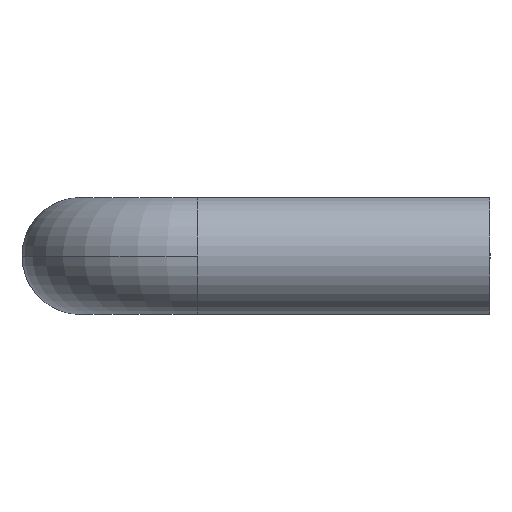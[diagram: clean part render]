
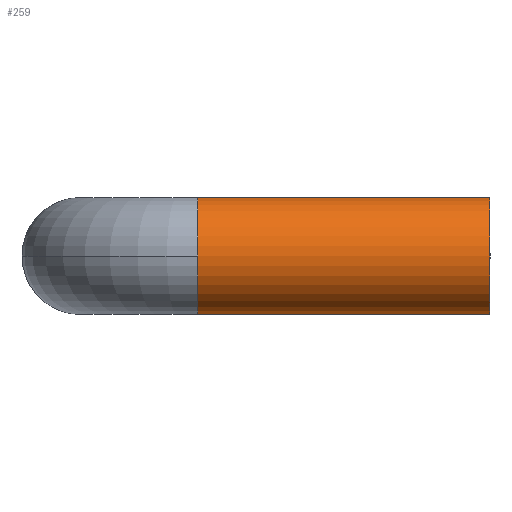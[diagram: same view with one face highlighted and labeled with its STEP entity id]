
A CAD part, left-side view. The second image highlights one B-rep face of the part: STEP entity #259.
In plain terms, the highlighted cylindrical face has radius 5 mm (diameter 10 mm), a partial arc.
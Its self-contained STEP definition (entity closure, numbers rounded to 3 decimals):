
#3 = AXIS2_PLACEMENT_3D ( 'NONE', #307, #13, #310 ) ;
#4 = CARTESIAN_POINT ( 'NONE',  ( -75., -35., 0. ) ) ;
#13 = DIRECTION ( 'NONE',  ( 0., -1., 0. ) ) ;
#16 = DIRECTION ( 'NONE',  ( 0., 0., -1. ) ) ;
#28 = ORIENTED_EDGE ( 'NONE', *, *, #113, .T. ) ;
#35 = AXIS2_PLACEMENT_3D ( 'NONE', #4, #615, #16 ) ;
#61 = ORIENTED_EDGE ( 'NONE', *, *, #346, .F. ) ;
#64 = AXIS2_PLACEMENT_3D ( 'NONE', #401, #353, #290 ) ;
#78 = VERTEX_POINT ( 'NONE', #195 ) ;
#86 = VERTEX_POINT ( 'NONE', #207 ) ;
#89 = CIRCLE ( 'NONE', #64, 5. ) ;
#113 = EDGE_CURVE ( 'NONE', #86, #477, #89, .T. ) ;
#140 = ORIENTED_EDGE ( 'NONE', *, *, #588, .F. ) ;
#156 = ORIENTED_EDGE ( 'NONE', *, *, #330, .T. ) ;
#195 = CARTESIAN_POINT ( 'NONE',  ( -75., -10., 5. ) ) ;
#207 = CARTESIAN_POINT ( 'NONE',  ( -80., -10., 0. ) ) ;
#238 = DIRECTION ( 'NONE',  ( 0., 0., -1. ) ) ;
#259 = ADVANCED_FACE ( 'NONE', ( #304 ), #407, .T. ) ;
#267 = CARTESIAN_POINT ( 'NONE',  ( -75., -10., -5. ) ) ;
#290 = DIRECTION ( 'NONE',  ( 0., 0., -1. ) ) ;
#304 = FACE_OUTER_BOUND ( 'NONE', #612, .T. ) ;
#307 = CARTESIAN_POINT ( 'NONE',  ( -75., -10., 0. ) ) ;
#310 = DIRECTION ( 'NONE',  ( 0., 0., -1. ) ) ;
#320 = VERTEX_POINT ( 'NONE', #581 ) ;
#326 = LINE ( 'NONE', #525, #584 ) ;
#330 = EDGE_CURVE ( 'NONE', #78, #86, #609, .T. ) ;
#346 = EDGE_CURVE ( 'NONE', #320, #457, #616, .T. ) ;
#353 = DIRECTION ( 'NONE',  ( 0., -1., 0. ) ) ;
#372 = CARTESIAN_POINT ( 'NONE',  ( -75., -10., 0. ) ) ;
#385 = DIRECTION ( 'NONE',  ( 0., -1., 0. ) ) ;
#389 = ORIENTED_EDGE ( 'NONE', *, *, #416, .T. ) ;
#393 = CARTESIAN_POINT ( 'NONE',  ( -75., -10., 5. ) ) ;
#401 = CARTESIAN_POINT ( 'NONE',  ( -75., -10., 0. ) ) ;
#407 = CYLINDRICAL_SURFACE ( 'NONE', #511, 5. ) ;
#416 = EDGE_CURVE ( 'NONE', #477, #457, #326, .T. ) ;
#428 = DIRECTION ( 'NONE',  ( 0., -1., 0. ) ) ;
#457 = VERTEX_POINT ( 'NONE', #566 ) ;
#477 = VERTEX_POINT ( 'NONE', #267 ) ;
#503 = LINE ( 'NONE', #393, #622 ) ;
#511 = AXIS2_PLACEMENT_3D ( 'NONE', #372, #428, #238 ) ;
#525 = CARTESIAN_POINT ( 'NONE',  ( -75., -10., -5. ) ) ;
#559 = DIRECTION ( 'NONE',  ( 0., -1., 0. ) ) ;
#566 = CARTESIAN_POINT ( 'NONE',  ( -75., -35., -5. ) ) ;
#581 = CARTESIAN_POINT ( 'NONE',  ( -75., -35., 5. ) ) ;
#584 = VECTOR ( 'NONE', #559, 1000. ) ;
#588 = EDGE_CURVE ( 'NONE', #78, #320, #503, .T. ) ;
#609 = CIRCLE ( 'NONE', #3, 5. ) ;
#612 = EDGE_LOOP ( 'NONE', ( #140, #156, #28, #389, #61 ) ) ;
#615 = DIRECTION ( 'NONE',  ( 0., -1., 0. ) ) ;
#616 = CIRCLE ( 'NONE', #35, 5. ) ;
#622 = VECTOR ( 'NONE', #385, 1000. ) ;
